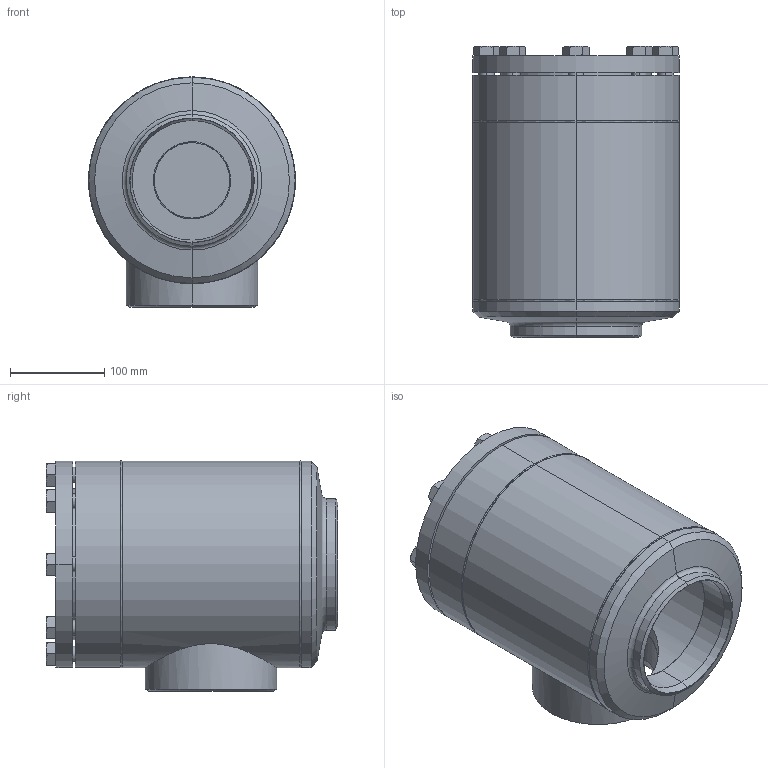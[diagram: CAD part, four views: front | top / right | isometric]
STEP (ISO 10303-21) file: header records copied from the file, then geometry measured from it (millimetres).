
FILE_DESCRIPTION (( 'STEP AP214' ), '1' );
FILE_NAME ('RV28400D20A5A0AA00_DN125_R1_PS40.STEP', '2010-06-16T10:50:02', ( 'Eckhard Grams' ), ( 'AWP Kälte Klima Armaturen GmbH' ), 'SwSTEP 2.0', 'SolidWorks 2002296', '' );
FILE_SCHEMA (( 'AUTOMOTIVE_DESIGN' ));
Length unit declared in the file: millimetre
Products named in the file (14): RV28400D20A5A0AA00_DN125_R1_PS40; Geh,kpl 16300E20-5030AA1_DN125_R1_Standard; Gehäuse16300-DN125_Standard; Kopfstück16300-DN125_Standard; Rohrstutzen-A16300a-20_R1_Standard; bead Geh,kpl 16400-20-2_Standard; Boden16300-DN125_Standard; bead Geh,kpl 16400-20-1_Standard; RV28300E20_Deck+Schr-DN125_Standard; Deckel,kpl28300E20-DN125_Standard; Buchse f Deckel28300-DN125_Standard; bead-deck283-125_Standard; Scheibe f Deckel28300-DN125_Standard; Sechskantschraube-DIN933_M16x 45
Assembly tree (20 placements, depth 4):
  RV28400D20A5A0AA00_DN125_R1_PS40
    Geh,kpl 16300E20-5030AA1_DN125_R1_Standard
      Kopfstück16300-DN125_Standard
      Rohrstutzen-A16300a-20_R1_Standard
      Boden16300-DN125_Standard
      Gehäuse16300-DN125_Standard
      bead Geh,kpl 16400-20-1_Standard
      bead Geh,kpl 16400-20-2_Standard
    RV28300E20_Deck+Schr-DN125_Standard
      Sechskantschraube-DIN933_M16x 45  x8
      Deckel,kpl28300E20-DN125_Standard
        bead-deck283-125_Standard
        Buchse f Deckel28300-DN125_Standard
        Scheibe f Deckel28300-DN125_Standard
Bounding box: 219.51 x 309 x 244.28 mm (x, y, z)
Volume: 4889520.6 mm3; surface area: 734143.2 mm2
Topology: 17 solids, 17 shells, 297 faces, 632 edges, 378 vertices
Faces by surface type: cone 124, plane 94, cylinder 67, bspline 10, torus 2
Entity records: 6071 total; most frequent: CARTESIAN_POINT 2648, DIRECTION 600, ORIENTED_EDGE 536, EDGE_CURVE 268, AXIS2_PLACEMENT_3D 262, VERTEX_POINT 168, EDGE_LOOP 156, CIRCLE 124
